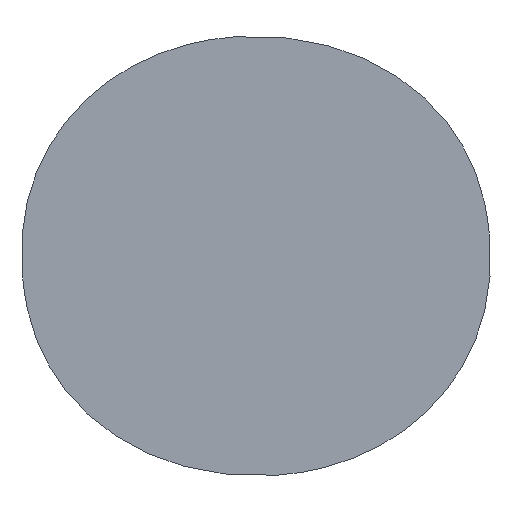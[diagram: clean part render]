
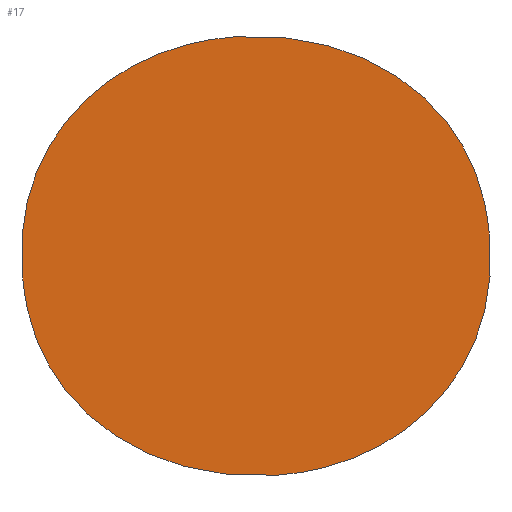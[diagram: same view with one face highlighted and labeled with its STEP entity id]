
A CAD part, top view. The second image highlights one B-rep face of the part: STEP entity #17.
In plain terms, the highlighted planar face has unit normal (0, 0, 1).
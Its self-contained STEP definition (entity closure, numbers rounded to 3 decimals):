
#17 = ADVANCED_FACE('',(#18),#33,.T.);
#18 = FACE_BOUND('',#19,.F.);
#19 = EDGE_LOOP('',(#20,#45,#63,#81));
#20 = ORIENTED_EDGE('',*,*,#21,.T.);
#21 = EDGE_CURVE('',#22,#24,#26,.T.);
#22 = VERTEX_POINT('',#23);
#23 = CARTESIAN_POINT('',(47.4,76.2,0.));
#24 = VERTEX_POINT('',#25);
#25 = CARTESIAN_POINT('',(77.9,52.5,0.));
#26 = SURFACE_CURVE('',#27,(#32),.PCURVE_S1.);
#27 = B_SPLINE_CURVE_WITH_KNOTS('',3,(#28,#29,#30,#31),.UNSPECIFIED.,.F.
  ,.F.,(4,4),(0.,1.),.PIECEWISE_BEZIER_KNOTS.);
#28 = CARTESIAN_POINT('',(47.4,76.2,0.));
#29 = CARTESIAN_POINT('',(63.335,77.281,0.));
#30 = CARTESIAN_POINT('',(76.746,67.839,0.));
#31 = CARTESIAN_POINT('',(77.9,52.5,0.));
#32 = PCURVE('',#33,#38);
#33 = PLANE('',#34);
#34 = AXIS2_PLACEMENT_3D('',#35,#36,#37);
#35 = CARTESIAN_POINT('',(0.,0.,0.));
#36 = DIRECTION('',(0.,0.,1.));
#37 = DIRECTION('',(1.,0.,-0.));
#38 = DEFINITIONAL_REPRESENTATION('',(#39),#44);
#39 = B_SPLINE_CURVE_WITH_KNOTS('',3,(#40,#41,#42,#43),.UNSPECIFIED.,.F.
  ,.F.,(4,4),(0.,1.),.PIECEWISE_BEZIER_KNOTS.);
#40 = CARTESIAN_POINT('',(47.4,76.2));
#41 = CARTESIAN_POINT('',(63.335,77.281));
#42 = CARTESIAN_POINT('',(76.746,67.839));
#43 = CARTESIAN_POINT('',(77.9,52.5));
#44 = ( GEOMETRIC_REPRESENTATION_CONTEXT(2) 
PARAMETRIC_REPRESENTATION_CONTEXT() REPRESENTATION_CONTEXT('2D SPACE',''
  ) );
#45 = ORIENTED_EDGE('',*,*,#46,.T.);
#46 = EDGE_CURVE('',#24,#47,#49,.T.);
#47 = VERTEX_POINT('',#48);
#48 = CARTESIAN_POINT('',(52.6,23.8,0.));
#49 = SURFACE_CURVE('',#50,(#55),.PCURVE_S1.);
#50 = B_SPLINE_CURVE_WITH_KNOTS('',3,(#51,#52,#53,#54),.UNSPECIFIED.,.F.
  ,.F.,(4,4),(0.,1.),.PIECEWISE_BEZIER_KNOTS.);
#51 = CARTESIAN_POINT('',(77.9,52.5,0.));
#52 = CARTESIAN_POINT('',(79.503,36.165,0.));
#53 = CARTESIAN_POINT('',(67.417,24.85,0.));
#54 = CARTESIAN_POINT('',(52.6,23.8,0.));
#55 = PCURVE('',#33,#56);
#56 = DEFINITIONAL_REPRESENTATION('',(#57),#62);
#57 = B_SPLINE_CURVE_WITH_KNOTS('',3,(#58,#59,#60,#61),.UNSPECIFIED.,.F.
  ,.F.,(4,4),(0.,1.),.PIECEWISE_BEZIER_KNOTS.);
#58 = CARTESIAN_POINT('',(77.9,52.5));
#59 = CARTESIAN_POINT('',(79.503,36.165));
#60 = CARTESIAN_POINT('',(67.417,24.85));
#61 = CARTESIAN_POINT('',(52.6,23.8));
#62 = ( GEOMETRIC_REPRESENTATION_CONTEXT(2) 
PARAMETRIC_REPRESENTATION_CONTEXT() REPRESENTATION_CONTEXT('2D SPACE',''
  ) );
#63 = ORIENTED_EDGE('',*,*,#64,.T.);
#64 = EDGE_CURVE('',#47,#65,#67,.T.);
#65 = VERTEX_POINT('',#66);
#66 = CARTESIAN_POINT('',(22.1,47.5,0.));
#67 = SURFACE_CURVE('',#68,(#73),.PCURVE_S1.);
#68 = B_SPLINE_CURVE_WITH_KNOTS('',3,(#69,#70,#71,#72),.UNSPECIFIED.,.F.
  ,.F.,(4,4),(0.,1.),.PIECEWISE_BEZIER_KNOTS.);
#69 = CARTESIAN_POINT('',(52.6,23.8,0.));
#70 = CARTESIAN_POINT('',(36.665,22.719,0.));
#71 = CARTESIAN_POINT('',(23.254,32.161,0.));
#72 = CARTESIAN_POINT('',(22.1,47.5,0.));
#73 = PCURVE('',#33,#74);
#74 = DEFINITIONAL_REPRESENTATION('',(#75),#80);
#75 = B_SPLINE_CURVE_WITH_KNOTS('',3,(#76,#77,#78,#79),.UNSPECIFIED.,.F.
  ,.F.,(4,4),(0.,1.),.PIECEWISE_BEZIER_KNOTS.);
#76 = CARTESIAN_POINT('',(52.6,23.8));
#77 = CARTESIAN_POINT('',(36.665,22.719));
#78 = CARTESIAN_POINT('',(23.254,32.161));
#79 = CARTESIAN_POINT('',(22.1,47.5));
#80 = ( GEOMETRIC_REPRESENTATION_CONTEXT(2) 
PARAMETRIC_REPRESENTATION_CONTEXT() REPRESENTATION_CONTEXT('2D SPACE',''
  ) );
#81 = ORIENTED_EDGE('',*,*,#82,.T.);
#82 = EDGE_CURVE('',#65,#22,#83,.T.);
#83 = SURFACE_CURVE('',#84,(#89),.PCURVE_S1.);
#84 = B_SPLINE_CURVE_WITH_KNOTS('',3,(#85,#86,#87,#88),.UNSPECIFIED.,.F.
  ,.F.,(4,4),(0.,1.),.PIECEWISE_BEZIER_KNOTS.);
#85 = CARTESIAN_POINT('',(22.1,47.5,0.));
#86 = CARTESIAN_POINT('',(20.497,63.835,0.));
#87 = CARTESIAN_POINT('',(32.583,75.15,0.));
#88 = CARTESIAN_POINT('',(47.4,76.2,0.));
#89 = PCURVE('',#33,#90);
#90 = DEFINITIONAL_REPRESENTATION('',(#91),#96);
#91 = B_SPLINE_CURVE_WITH_KNOTS('',3,(#92,#93,#94,#95),.UNSPECIFIED.,.F.
  ,.F.,(4,4),(0.,1.),.PIECEWISE_BEZIER_KNOTS.);
#92 = CARTESIAN_POINT('',(22.1,47.5));
#93 = CARTESIAN_POINT('',(20.497,63.835));
#94 = CARTESIAN_POINT('',(32.583,75.15));
#95 = CARTESIAN_POINT('',(47.4,76.2));
#96 = ( GEOMETRIC_REPRESENTATION_CONTEXT(2) 
PARAMETRIC_REPRESENTATION_CONTEXT() REPRESENTATION_CONTEXT('2D SPACE',''
  ) );
